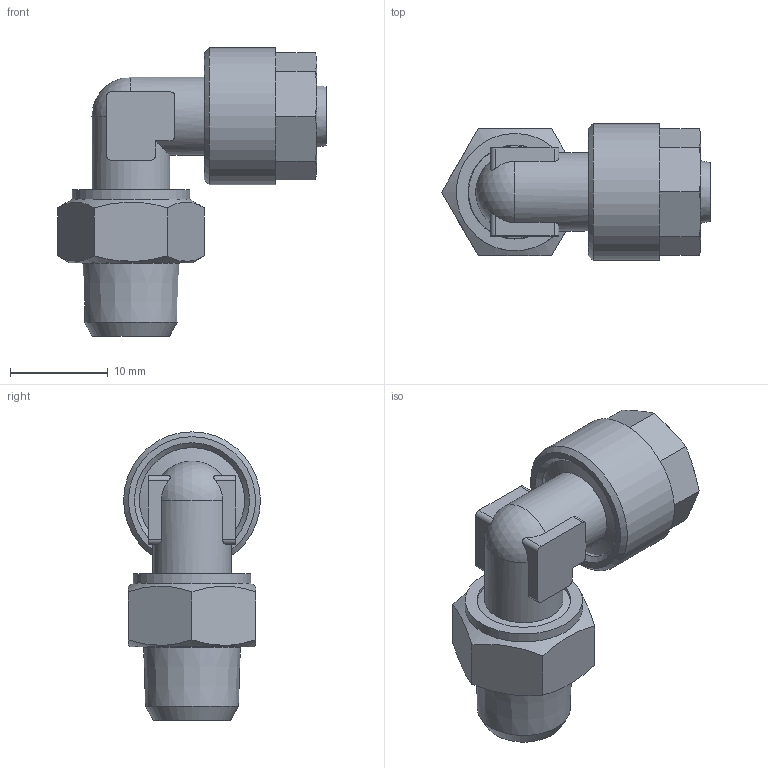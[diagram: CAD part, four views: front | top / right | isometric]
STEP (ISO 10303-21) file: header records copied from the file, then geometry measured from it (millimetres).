
FILE_DESCRIPTION(/* description */ (''),/* implementation_level */ '2;1');
FILE_NAME(/* name */ '11103_305DK_86_R18_19.07.17',/* time_stamp */ '2017-07-19T10:59:10+02:00',/* author */ (''),/* organization */ (''),/* preprocessor_version */ 'ST-DEVELOPER v16.5',/* originating_system */ 'HiCAD 2016 2102.2 Build 618',/* authorisation */ '');
FILE_SCHEMA (('AUTOMOTIVE_DESIGN { 1 0 10303 214 1 1 1 1 }'));
Length unit declared in the file: millimetre
Products named in the file (4): Root; 11103_Gewinde; 17006; 11103_Anschluss
Assembly tree (3 placements, depth 2):
  Root
    11103_Gewinde
    17006
    11103_Anschluss
Bounding box: 27.51 x 14 x 29.5 mm (x, y, z)
Volume: 3059.9 mm3; surface area: 3760.7 mm2
Topology: 3 solids, 3 shells, 89 faces, 222 edges, 145 vertices
Faces by surface type: plane 39, cone 24, cylinder 24, torus 1, sphere 1
Full cylindrical faces by diameter (mm): 5 x1, 5.5 x2, 6.8 x1, 8 x3, 9.5 x1, 9.6 x1, 9.884 x1, 10.773 x1, 12 x2, 14 x1
Entity records: 6997 total; most frequent: CARTESIAN_POINT 3199, DIRECTION 444, PRESENTATION_STYLE_ASSIGNMENT 357, COLOUR_RGB 355, DRAUGHTING_PRE_DEFINED_CURVE_FONT 354, CURVE_STYLE 354, OVER_RIDING_STYLED_ITEM 354, ORIENTED_EDGE 354
